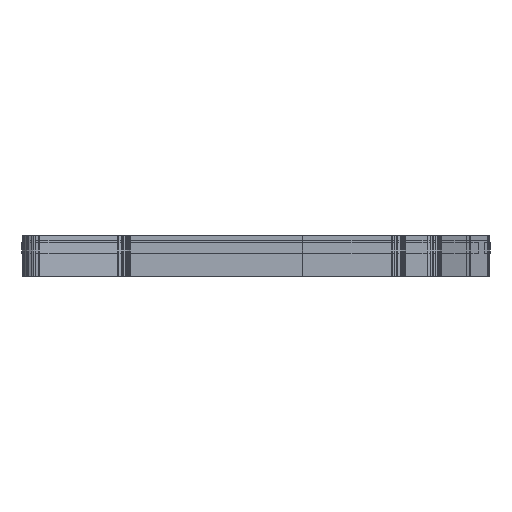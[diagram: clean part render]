
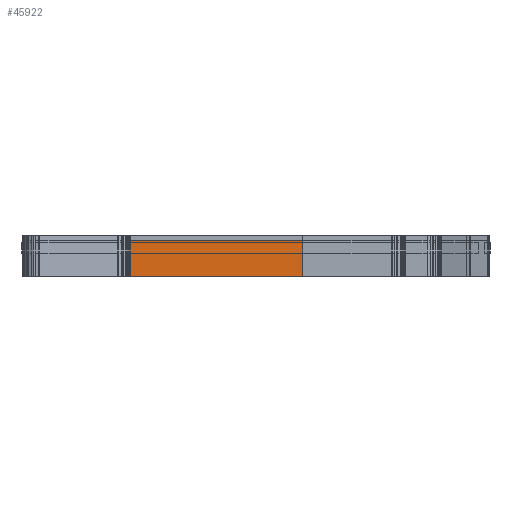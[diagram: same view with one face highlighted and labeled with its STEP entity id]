
A CAD part, left-side view. The second image highlights one B-rep face of the part: STEP entity #45922.
In plain terms, the highlighted planar face has unit normal (-1, 0, 0).
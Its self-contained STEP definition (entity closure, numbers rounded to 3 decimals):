
#26105 = PLANE('',#26106);
#26106 = AXIS2_PLACEMENT_3D('',#26107,#26108,#26109);
#26107 = CARTESIAN_POINT('',(63.29,-47.96,3.5));
#26108 = DIRECTION('',(0.,0.,1.));
#26109 = DIRECTION('',(1.,0.,-0.));
#26159 = PLANE('',#26160);
#26160 = AXIS2_PLACEMENT_3D('',#26161,#26162,#26163);
#26161 = CARTESIAN_POINT('',(63.29,-47.96,-6.6));
#26162 = DIRECTION('',(0.,0.,1.));
#26163 = DIRECTION('',(1.,0.,-0.));
#26716 = VERTEX_POINT('',#26717);
#26717 = CARTESIAN_POINT('',(-4.07,-15.3,-6.6));
#26731 = PLANE('',#26732);
#26732 = AXIS2_PLACEMENT_3D('',#26733,#26734,#26735);
#26733 = CARTESIAN_POINT('',(-6.772,-15.3,-6.6));
#26734 = DIRECTION('',(0.,1.,0.));
#26735 = DIRECTION('',(1.,0.,0.));
#26743 = EDGE_CURVE('',#26716,#26744,#26746,.T.);
#26744 = VERTEX_POINT('',#26745);
#26745 = CARTESIAN_POINT('',(-4.07,-64.068,-6.6));
#26746 = SURFACE_CURVE('',#26747,(#26751,#26758),.PCURVE_S1.);
#26747 = LINE('',#26748,#26749);
#26748 = CARTESIAN_POINT('',(-4.07,-15.3,-6.6));
#26749 = VECTOR('',#26750,1.);
#26750 = DIRECTION('',(0.,-1.,0.));
#26751 = PCURVE('',#26159,#26752);
#26752 = DEFINITIONAL_REPRESENTATION('',(#26753),#26757);
#26753 = LINE('',#26754,#26755);
#26754 = CARTESIAN_POINT('',(-67.36,32.66));
#26755 = VECTOR('',#26756,1.);
#26756 = DIRECTION('',(0.,-1.));
#26757 = ( GEOMETRIC_REPRESENTATION_CONTEXT(2) 
PARAMETRIC_REPRESENTATION_CONTEXT() REPRESENTATION_CONTEXT('2D SPACE',''
  ) );
#26758 = PCURVE('',#26759,#26764);
#26759 = PLANE('',#26760);
#26760 = AXIS2_PLACEMENT_3D('',#26761,#26762,#26763);
#26761 = CARTESIAN_POINT('',(-4.07,-15.3,-6.6));
#26762 = DIRECTION('',(1.,0.,-0.));
#26763 = DIRECTION('',(0.,-1.,0.));
#26764 = DEFINITIONAL_REPRESENTATION('',(#26765),#26769);
#26765 = LINE('',#26766,#26767);
#26766 = CARTESIAN_POINT('',(0.,0.));
#26767 = VECTOR('',#26768,1.);
#26768 = DIRECTION('',(1.,0.));
#26769 = ( GEOMETRIC_REPRESENTATION_CONTEXT(2) 
PARAMETRIC_REPRESENTATION_CONTEXT() REPRESENTATION_CONTEXT('2D SPACE',''
  ) );
#26787 = PLANE('',#26788);
#26788 = AXIS2_PLACEMENT_3D('',#26789,#26790,#26791);
#26789 = CARTESIAN_POINT('',(-4.07,-64.068,-6.6));
#26790 = DIRECTION('',(0.707,-0.707,0.));
#26791 = DIRECTION('',(-0.707,-0.707,0.));
#32481 = VERTEX_POINT('',#32482);
#32482 = CARTESIAN_POINT('',(-4.07,-15.3,3.5));
#32503 = EDGE_CURVE('',#32481,#32504,#32506,.T.);
#32504 = VERTEX_POINT('',#32505);
#32505 = CARTESIAN_POINT('',(-4.07,-64.068,3.5));
#32506 = SURFACE_CURVE('',#32507,(#32511,#32518),.PCURVE_S1.);
#32507 = LINE('',#32508,#32509);
#32508 = CARTESIAN_POINT('',(-4.07,-15.3,3.5));
#32509 = VECTOR('',#32510,1.);
#32510 = DIRECTION('',(0.,-1.,0.));
#32511 = PCURVE('',#26105,#32512);
#32512 = DEFINITIONAL_REPRESENTATION('',(#32513),#32517);
#32513 = LINE('',#32514,#32515);
#32514 = CARTESIAN_POINT('',(-67.36,32.66));
#32515 = VECTOR('',#32516,1.);
#32516 = DIRECTION('',(0.,-1.));
#32517 = ( GEOMETRIC_REPRESENTATION_CONTEXT(2) 
PARAMETRIC_REPRESENTATION_CONTEXT() REPRESENTATION_CONTEXT('2D SPACE',''
  ) );
#32518 = PCURVE('',#26759,#32519);
#32519 = DEFINITIONAL_REPRESENTATION('',(#32520),#32524);
#32520 = LINE('',#32521,#32522);
#32521 = CARTESIAN_POINT('',(0.,-10.1));
#32522 = VECTOR('',#32523,1.);
#32523 = DIRECTION('',(1.,0.));
#32524 = ( GEOMETRIC_REPRESENTATION_CONTEXT(2) 
PARAMETRIC_REPRESENTATION_CONTEXT() REPRESENTATION_CONTEXT('2D SPACE',''
  ) );
#45874 = EDGE_CURVE('',#26716,#32481,#45875,.T.);
#45875 = SURFACE_CURVE('',#45876,(#45880,#45887),.PCURVE_S1.);
#45876 = LINE('',#45877,#45878);
#45877 = CARTESIAN_POINT('',(-4.07,-15.3,-6.6));
#45878 = VECTOR('',#45879,1.);
#45879 = DIRECTION('',(0.,0.,1.));
#45880 = PCURVE('',#26731,#45881);
#45881 = DEFINITIONAL_REPRESENTATION('',(#45882),#45886);
#45882 = LINE('',#45883,#45884);
#45883 = CARTESIAN_POINT('',(2.702,0.));
#45884 = VECTOR('',#45885,1.);
#45885 = DIRECTION('',(0.,-1.));
#45886 = ( GEOMETRIC_REPRESENTATION_CONTEXT(2) 
PARAMETRIC_REPRESENTATION_CONTEXT() REPRESENTATION_CONTEXT('2D SPACE',''
  ) );
#45887 = PCURVE('',#26759,#45888);
#45888 = DEFINITIONAL_REPRESENTATION('',(#45889),#45893);
#45889 = LINE('',#45890,#45891);
#45890 = CARTESIAN_POINT('',(0.,0.));
#45891 = VECTOR('',#45892,1.);
#45892 = DIRECTION('',(0.,-1.));
#45893 = ( GEOMETRIC_REPRESENTATION_CONTEXT(2) 
PARAMETRIC_REPRESENTATION_CONTEXT() REPRESENTATION_CONTEXT('2D SPACE',''
  ) );
#45922 = ADVANCED_FACE('',(#45923),#26759,.F.);
#45923 = FACE_BOUND('',#45924,.F.);
#45924 = EDGE_LOOP('',(#45925,#45926,#45927,#45948));
#45925 = ORIENTED_EDGE('',*,*,#45874,.T.);
#45926 = ORIENTED_EDGE('',*,*,#32503,.T.);
#45927 = ORIENTED_EDGE('',*,*,#45928,.F.);
#45928 = EDGE_CURVE('',#26744,#32504,#45929,.T.);
#45929 = SURFACE_CURVE('',#45930,(#45934,#45941),.PCURVE_S1.);
#45930 = LINE('',#45931,#45932);
#45931 = CARTESIAN_POINT('',(-4.07,-64.068,-6.6));
#45932 = VECTOR('',#45933,1.);
#45933 = DIRECTION('',(0.,0.,1.));
#45934 = PCURVE('',#26759,#45935);
#45935 = DEFINITIONAL_REPRESENTATION('',(#45936),#45940);
#45936 = LINE('',#45937,#45938);
#45937 = CARTESIAN_POINT('',(48.768,0.));
#45938 = VECTOR('',#45939,1.);
#45939 = DIRECTION('',(0.,-1.));
#45940 = ( GEOMETRIC_REPRESENTATION_CONTEXT(2) 
PARAMETRIC_REPRESENTATION_CONTEXT() REPRESENTATION_CONTEXT('2D SPACE',''
  ) );
#45941 = PCURVE('',#26787,#45942);
#45942 = DEFINITIONAL_REPRESENTATION('',(#45943),#45947);
#45943 = LINE('',#45944,#45945);
#45944 = CARTESIAN_POINT('',(0.,0.));
#45945 = VECTOR('',#45946,1.);
#45946 = DIRECTION('',(0.,-1.));
#45947 = ( GEOMETRIC_REPRESENTATION_CONTEXT(2) 
PARAMETRIC_REPRESENTATION_CONTEXT() REPRESENTATION_CONTEXT('2D SPACE',''
  ) );
#45948 = ORIENTED_EDGE('',*,*,#26743,.F.);
